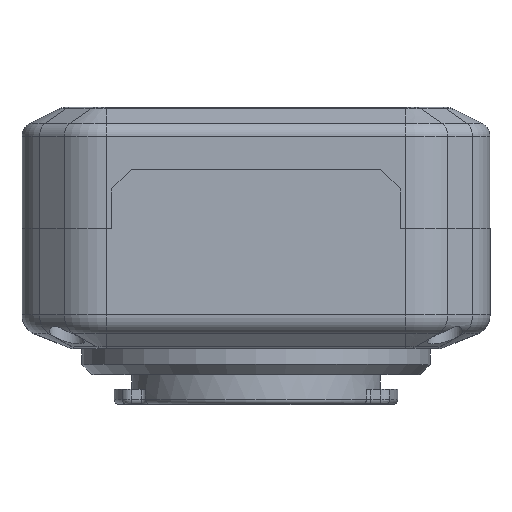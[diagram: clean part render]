
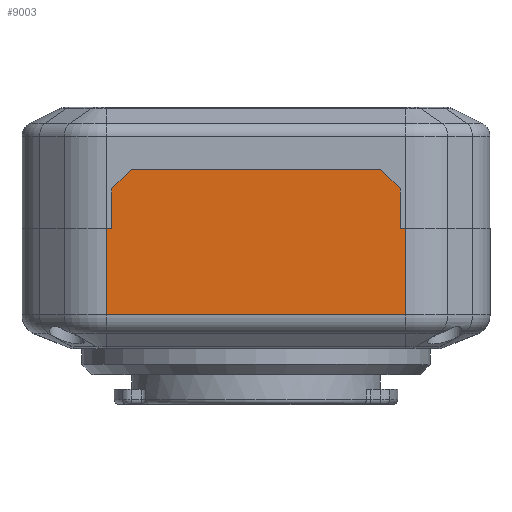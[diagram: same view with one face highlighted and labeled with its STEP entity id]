
A CAD part, top view. The second image highlights one B-rep face of the part: STEP entity #9003.
In plain terms, the highlighted planar face has unit normal (0, 0, 1) as drawn and (-1, 0, 0) by its records, which use the part's own axes.
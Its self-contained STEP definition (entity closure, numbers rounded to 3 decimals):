
#855=FACE_OUTER_BOUND('',#1431,.T.);
#1431=EDGE_LOOP('',(#5988,#5989,#5990,#5991,#5992,#5993,#5994,#5995,#5996,
#5997));
#2044=LINE('',#13634,#2924);
#2046=LINE('',#13638,#2926);
#2047=LINE('',#13640,#2927);
#2048=LINE('',#13642,#2928);
#2049=LINE('',#13644,#2929);
#2050=LINE('',#13646,#2930);
#2051=LINE('',#13648,#2931);
#2052=LINE('',#13650,#2932);
#2053=LINE('',#13652,#2933);
#2054=LINE('',#13653,#2934);
#2924=VECTOR('',#10660,10.);
#2926=VECTOR('',#10664,10.);
#2927=VECTOR('',#10665,10.);
#2928=VECTOR('',#10666,10.);
#2929=VECTOR('',#10667,10.);
#2930=VECTOR('',#10668,10.);
#2931=VECTOR('',#10669,10.);
#2932=VECTOR('',#10670,10.);
#2933=VECTOR('',#10671,10.);
#2934=VECTOR('',#10672,10.);
#3804=VERTEX_POINT('',#13631);
#3805=VERTEX_POINT('',#13633);
#3806=VERTEX_POINT('',#13637);
#3807=VERTEX_POINT('',#13639);
#3808=VERTEX_POINT('',#13641);
#3809=VERTEX_POINT('',#13643);
#3810=VERTEX_POINT('',#13645);
#3811=VERTEX_POINT('',#13647);
#3812=VERTEX_POINT('',#13649);
#3813=VERTEX_POINT('',#13651);
#4615=EDGE_CURVE('',#3804,#3805,#2044,.T.);
#4617=EDGE_CURVE('',#3806,#3804,#2046,.T.);
#4618=EDGE_CURVE('',#3807,#3806,#2047,.T.);
#4619=EDGE_CURVE('',#3807,#3808,#2048,.T.);
#4620=EDGE_CURVE('',#3809,#3808,#2049,.T.);
#4621=EDGE_CURVE('',#3810,#3809,#2050,.T.);
#4622=EDGE_CURVE('',#3811,#3810,#2051,.T.);
#4623=EDGE_CURVE('',#3812,#3811,#2052,.T.);
#4624=EDGE_CURVE('',#3813,#3812,#2053,.T.);
#4625=EDGE_CURVE('',#3813,#3805,#2054,.T.);
#5988=ORIENTED_EDGE('',*,*,#4615,.F.);
#5989=ORIENTED_EDGE('',*,*,#4617,.F.);
#5990=ORIENTED_EDGE('',*,*,#4618,.F.);
#5991=ORIENTED_EDGE('',*,*,#4619,.T.);
#5992=ORIENTED_EDGE('',*,*,#4620,.F.);
#5993=ORIENTED_EDGE('',*,*,#4621,.F.);
#5994=ORIENTED_EDGE('',*,*,#4622,.F.);
#5995=ORIENTED_EDGE('',*,*,#4623,.F.);
#5996=ORIENTED_EDGE('',*,*,#4624,.F.);
#5997=ORIENTED_EDGE('',*,*,#4625,.T.);
#8727=PLANE('',#9607);
#9003=ADVANCED_FACE('',(#855),#8727,.T.);
#9607=AXIS2_PLACEMENT_3D('',#13636,#10662,#10663);
#10660=DIRECTION('',(0.,-0.707,0.707));
#10662=DIRECTION('center_axis',(-1.,0.,0.));
#10663=DIRECTION('ref_axis',(0.,0.,
1.));
#10664=DIRECTION('',(0.,0.,1.));
#10665=DIRECTION('',(0.,0.707,0.707));
#10666=DIRECTION('',(0.,-1.,0.));
#10667=DIRECTION('',(0.,0.,1.));
#10668=DIRECTION('',(0.,1.,0.));
#10669=DIRECTION('',(0.,0.,-1.));
#10670=DIRECTION('',(0.,-1.,0.));
#10671=DIRECTION('',(0.,0.,1.));
#10672=DIRECTION('',(0.,1.,0.));
#13631=CARTESIAN_POINT('',(96.5,18.,-42.5));
#13633=CARTESIAN_POINT('',(96.5,16.,-40.5));
#13634=CARTESIAN_POINT('',(96.5,12.5,-37.));
#13636=CARTESIAN_POINT('Origin',(96.5,0.,
-40.5));
#13637=CARTESIAN_POINT('',(96.5,18.,-67.5));
#13638=CARTESIAN_POINT('',(96.5,18.,-78.5));
#13639=CARTESIAN_POINT('',(96.5,16.,-69.5));
#13640=CARTESIAN_POINT('',(96.5,19.75,-65.75));
#13641=CARTESIAN_POINT('',(96.5,12.,-69.5));
#13642=CARTESIAN_POINT('',(96.5,6.,-69.5));
#13643=CARTESIAN_POINT('',(96.5,12.,-70.015));
#13644=CARTESIAN_POINT('',(96.5,12.,-47.75));
#13645=CARTESIAN_POINT('',(96.5,3.354,-70.015));
#13646=CARTESIAN_POINT('',(96.5,11.,-70.015));
#13647=CARTESIAN_POINT('',(96.5,3.354,-39.985));
#13648=CARTESIAN_POINT('',(96.5,3.354,-44.125));
#13649=CARTESIAN_POINT('',(96.5,12.,-39.985));
#13650=CARTESIAN_POINT('',(96.5,0.,-39.985));
#13651=CARTESIAN_POINT('',(96.5,12.,-40.5));
#13652=CARTESIAN_POINT('',(96.5,12.,-47.75));
#13653=CARTESIAN_POINT('',(96.5,0.,-40.5));
